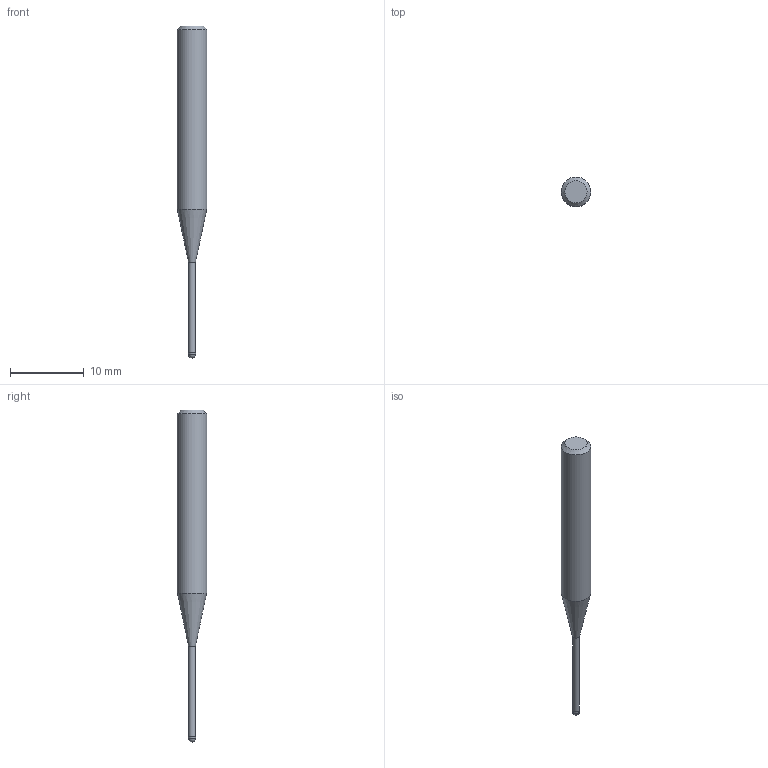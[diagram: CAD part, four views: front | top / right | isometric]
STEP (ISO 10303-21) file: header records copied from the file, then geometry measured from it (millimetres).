
FILE_DESCRIPTION((''),'2;1');
FILE_NAME('C:\Users\nsx150\AppData\Local\Temp\Mastercam 2021\ARV7HD45SN\TEMP.step','2023-06-13T16:35:46',(''),(''),'STEP Write','Mastercam 2021 ... CNC Software, Inc.','');
FILE_SCHEMA(('AUTOMOTIVE_DESIGN'));
Length unit declared in the file: millimetre
Products named in the file (1): None
Bounding box: 4 x 4 x 45 mm (x, y, z)
Volume: 358.6 mm3; surface area: 418 mm2
Topology: 2 solids, 2 shells, 9 faces, 14 edges, 8 vertices
Faces by surface type: plane 3, cylinder 3, cone 2, sphere 1
Full cylindrical faces by diameter (mm): 0.95 x1, 1 x1, 4 x1
Entity records: 211 total; most frequent: DIRECTION 36, CARTESIAN_POINT 25, AXIS2_PLACEMENT_3D 18, ORIENTED_EDGE 14, EDGE_LOOP 14, STYLED_ITEM 12, ADVANCED_FACE 9, FACE_BOUND 8
